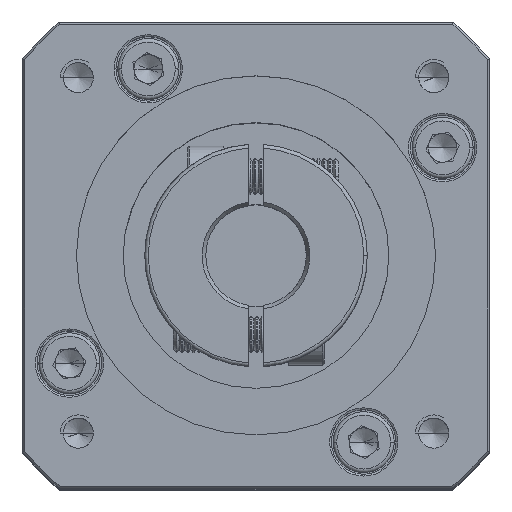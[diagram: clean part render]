
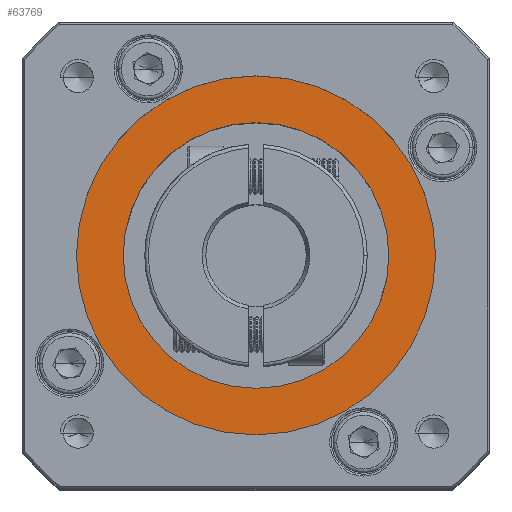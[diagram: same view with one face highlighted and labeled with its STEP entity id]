
A CAD part, top view. The second image highlights one B-rep face of the part: STEP entity #63769.
In plain terms, the highlighted planar face has unit normal (0, 0, 1).
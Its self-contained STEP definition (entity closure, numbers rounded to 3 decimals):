
#1025 = VERTEX_POINT ( 'NONE', #80227 ) ;
#1158 = CIRCLE ( 'NONE', #10336, 18.5 ) ;
#3356 = PLANE ( 'NONE',  #107504 ) ;
#3708 = CARTESIAN_POINT ( 'NONE',  ( 5.43, 11.563, 148.65 ) ) ;
#4163 = DIRECTION ( 'NONE',  ( 1., 0., 0. ) ) ;
#5207 = EDGE_CURVE ( 'NONE', #50391, #45143, #1158, .T. ) ;
#6514 = EDGE_CURVE ( 'NONE', #45143, #50391, #86404, .T. ) ;
#6960 = CIRCLE ( 'NONE', #57558, 25. ) ;
#10336 = AXIS2_PLACEMENT_3D ( 'NONE', #105269, #54724, #4163 ) ;
#12224 = DIRECTION ( 'NONE',  ( 1., 0., 0. ) ) ;
#13705 = DIRECTION ( 'NONE',  ( 0., 0., -1. ) ) ;
#26726 = CARTESIAN_POINT ( 'NONE',  ( 5.43, 11.563, 148.65 ) ) ;
#33696 = FACE_OUTER_BOUND ( 'NONE', #84775, .T. ) ;
#35227 = DIRECTION ( 'NONE',  ( 1., 0., 0. ) ) ;
#37271 = EDGE_CURVE ( 'NONE', #68324, #1025, #6960, .T. ) ;
#43689 = CARTESIAN_POINT ( 'NONE',  ( -13.07, 11.563, 148.65 ) ) ;
#45143 = VERTEX_POINT ( 'NONE', #43689 ) ;
#46513 = CARTESIAN_POINT ( 'NONE',  ( 5.43, 11.563, 148.65 ) ) ;
#50391 = VERTEX_POINT ( 'NONE', #95124 ) ;
#51621 = EDGE_CURVE ( 'NONE', #1025, #68324, #53172, .T. ) ;
#53172 = CIRCLE ( 'NONE', #58091, 25. ) ;
#54030 = ORIENTED_EDGE ( 'NONE', *, *, #37271, .T. ) ;
#54724 = DIRECTION ( 'NONE',  ( 0., 0., -1. ) ) ;
#54928 = DIRECTION ( 'NONE',  ( 1., 0., 0. ) ) ;
#57558 = AXIS2_PLACEMENT_3D ( 'NONE', #46513, #105478, #54928 ) ;
#58091 = AXIS2_PLACEMENT_3D ( 'NONE', #26726, #85758, #35227 ) ;
#62741 = DIRECTION ( 'NONE',  ( 0., 0., 1. ) ) ;
#63769 = ADVANCED_FACE ( 'NONE', ( #33696, #101044 ), #3356, .T. ) ;
#64239 = ORIENTED_EDGE ( 'NONE', *, *, #6514, .T. ) ;
#64261 = CARTESIAN_POINT ( 'NONE',  ( 5.43, 11.563, 148.65 ) ) ;
#68324 = VERTEX_POINT ( 'NONE', #106048 ) ;
#71642 = ORIENTED_EDGE ( 'NONE', *, *, #5207, .T. ) ;
#72712 = DIRECTION ( 'NONE',  ( 1., 0., 0. ) ) ;
#80227 = CARTESIAN_POINT ( 'NONE',  ( 30.43, 11.563, 148.65 ) ) ;
#83199 = ORIENTED_EDGE ( 'NONE', *, *, #51621, .T. ) ;
#84775 = EDGE_LOOP ( 'NONE', ( #83199, #54030 ) ) ;
#85758 = DIRECTION ( 'NONE',  ( 0., 0., 1. ) ) ;
#86404 = CIRCLE ( 'NONE', #108738, 18.5 ) ;
#89026 = EDGE_LOOP ( 'NONE', ( #71642, #64239 ) ) ;
#95124 = CARTESIAN_POINT ( 'NONE',  ( 23.93, 11.563, 148.65 ) ) ;
#101044 = FACE_BOUND ( 'NONE', #89026, .T. ) ;
#105269 = CARTESIAN_POINT ( 'NONE',  ( 5.43, 11.563, 148.65 ) ) ;
#105478 = DIRECTION ( 'NONE',  ( 0., 0., 1. ) ) ;
#106048 = CARTESIAN_POINT ( 'NONE',  ( -19.57, 11.563, 148.65 ) ) ;
#107504 = AXIS2_PLACEMENT_3D ( 'NONE', #3708, #62741, #12224 ) ;
#108738 = AXIS2_PLACEMENT_3D ( 'NONE', #64261, #13705, #72712 ) ;
